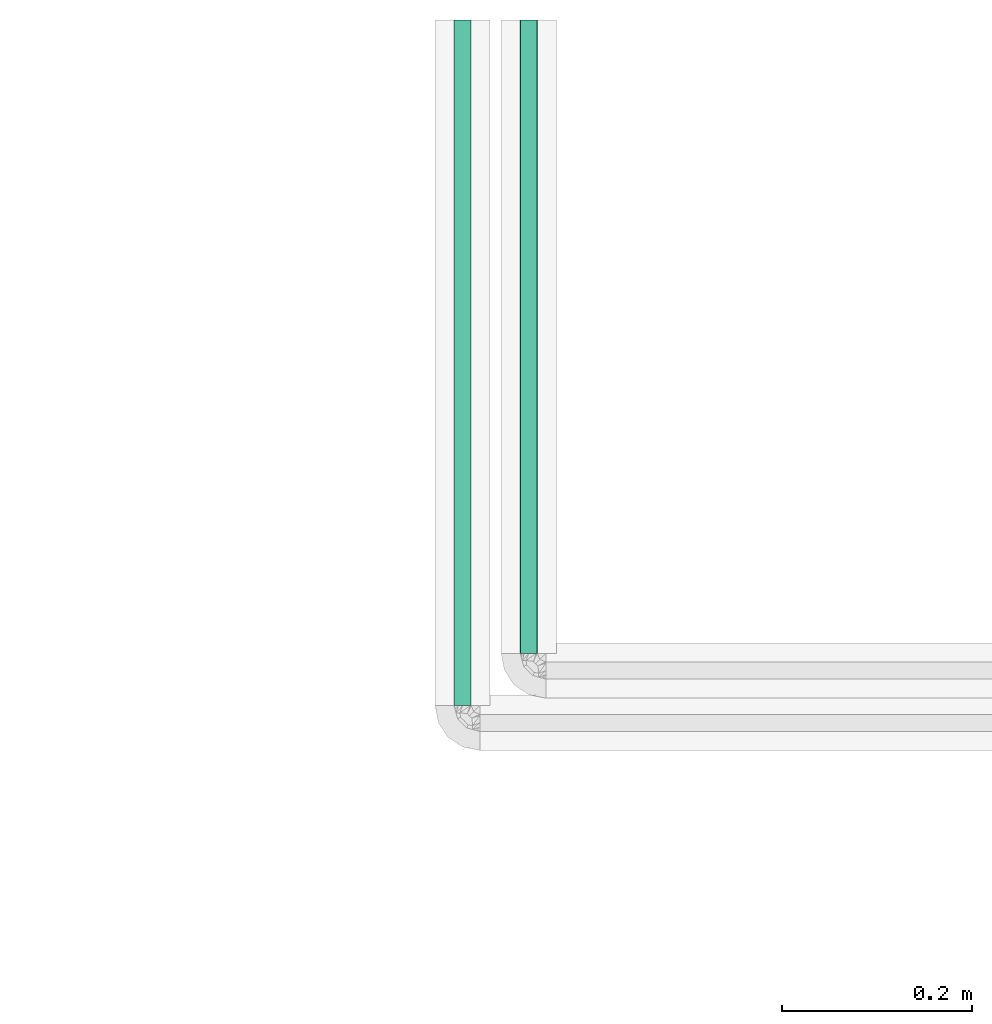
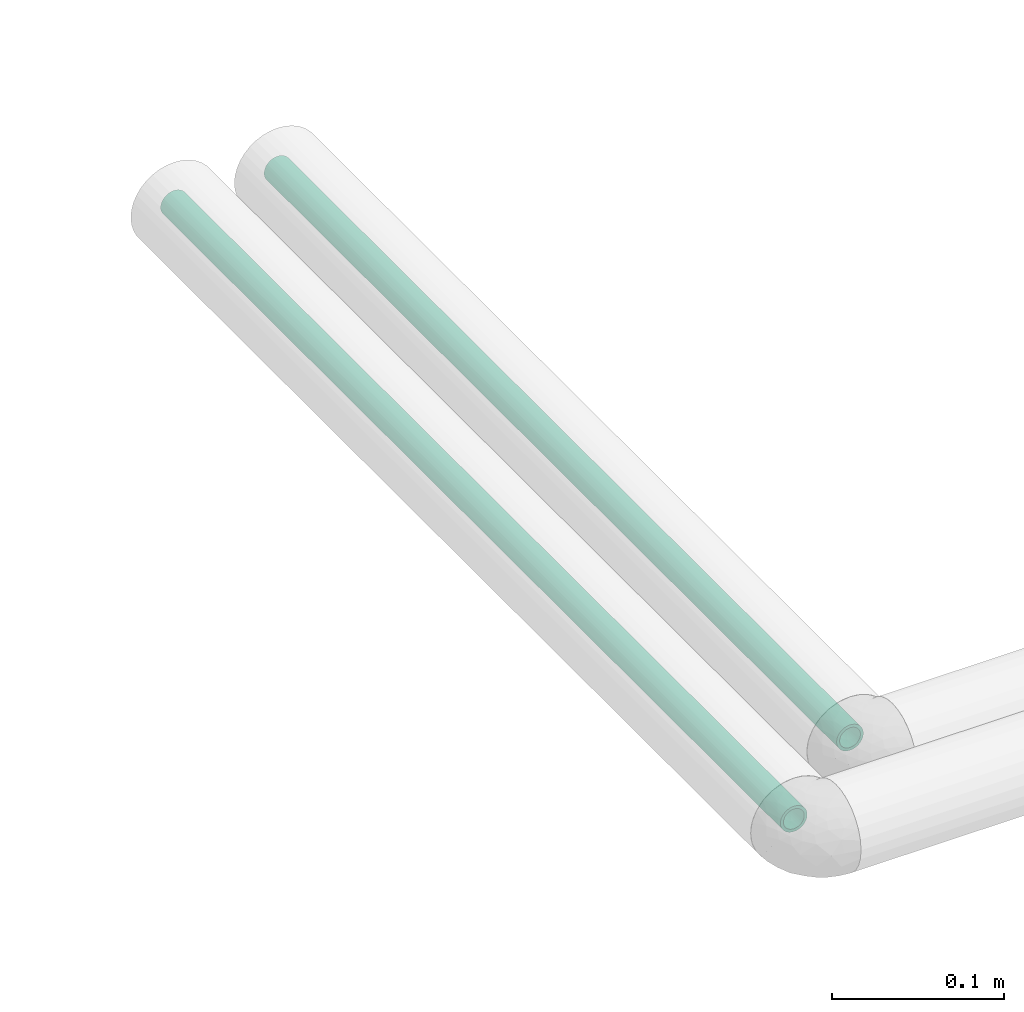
# One storey, part 74 of 83: 2 flow segments.
"""IFC2X3 building model written with IfcOpenShell, lengths in millimetres."""

import ifcopenshell
import ifcopenshell.guid

model = None  # the IFC model being written
_history = None  # IfcOwnerHistory: only IFC2X3 demands one
_inside = {}  # id of a spatial element -> (the spatial element, [elements in it])
_under = {}  # id of a project, library or spatial element -> (it, [spatial elements below it])
_declared = {}  # id of a project -> (the project, [libraries it declares])
_typed = {}  # id of a type object -> (the type object, [elements of that type])
_made_of = {}  # id of a material, layer set ... -> (it, [elements and type objects made of it])


def new_model(schema):
    """Start an empty IFC model of exactly this schema.

    Asked for "IFC4X3", IfcOpenShell would pick the latest addendum, in which some entities
    have other attributes; the version numbers below select the first issue.
    IFC2X3 requires an IfcOwnerHistory on every rooted entity: one is made here for all.
    """
    global model, _history
    if schema == "IFC4X3":
        model = ifcopenshell.file(schema_version=(4, 3, 0, 0))
    else:
        model = ifcopenshell.file(schema=schema)
    _inside.clear()
    _under.clear()
    _declared.clear()
    _typed.clear()
    _made_of.clear()
    _history = None
    if model.schema == "IFC2X3":
        org = make("IfcOrganization", Name="unknown")
        user = make(
            "IfcPersonAndOrganization",
            ThePerson=make("IfcPerson", FamilyName="unknown"),
            TheOrganization=org,
        )
        app = make(
            "IfcApplication",
            ApplicationDeveloper=org,
            Version="unknown",
            ApplicationFullName="unknown",
            ApplicationIdentifier="unknown",
        )
        _history = make(
            "IfcOwnerHistory",
            OwningUser=user,
            OwningApplication=app,
            ChangeAction="ADDED",
            CreationDate=0,
        )
    return model


def make(cls, **values):
    """One entity of the class cls with the attributes given. An attribute that is None is left unset."""
    return model.create_entity(
        cls, **{name: value for name, value in values.items() if value is not None}
    )


def entity(cls, *values):
    """Any entity or typed value of the class cls, its attributes in the order of the schema. None: left unset."""
    e = model.create_entity(cls)
    for i, value in enumerate(values):
        if value is not None:
            e[i] = value
    return e


def rooted(cls, **values):
    """An entity with a GlobalId (a new one), such as an element, a storey or a relation."""
    return make(cls, GlobalId=ifcopenshell.guid.new(), OwnerHistory=_history, **values)


def si_unit(unit_type, name, prefix=None):
    """IfcSIUnit, for example si_unit("LENGTHUNIT", "METRE", prefix="MILLI")."""
    return make("IfcSIUnit", UnitType=unit_type, Prefix=prefix, Name=name)


def converted_unit(unit_type, name, factor, base, dimensions=None, offset=None):
    """IfcConversionBasedUnit, such as the inch: factor (a typed value) times the base unit."""
    return make(
        "IfcConversionBasedUnit"
        if offset is None
        else "IfcConversionBasedUnitWithOffset",
        ConversionOffset=offset,
        Dimensions=None
        if dimensions is None
        else entity("IfcDimensionalExponents", *dimensions),
        UnitType=unit_type,
        Name=name,
        ConversionFactor=make(
            "IfcMeasureWithUnit", ValueComponent=factor, UnitComponent=base
        ),
    )


def derived_unit(unit_type, elements):
    """IfcDerivedUnit: a product of units, each with its exponent."""
    return make(
        "IfcDerivedUnit",
        Elements=[
            make("IfcDerivedUnitElement", Unit=unit, Exponent=power)
            for unit, power in elements
        ],
        UnitType=unit_type,
    )


def assignment(units):
    """IfcUnitAssignment: the units of a project."""
    return None if units is None else make("IfcUnitAssignment", Units=units)


def point(xyz):
    """IfcCartesianPoint."""
    return None if xyz is None else make("IfcCartesianPoint", Coordinates=xyz)


def direction(xyz):
    """IfcDirection."""
    return None if xyz is None else make("IfcDirection", DirectionRatios=xyz)


def frame(location, z_axis=None, x_axis=None):
    """IfcAxis2Placement3D, a coordinate frame: its origin and axes. An axis left out is left unset."""
    return make(
        "IfcAxis2Placement3D",
        Location=point(location),
        Axis=direction(z_axis),
        RefDirection=direction(x_axis),
    )


def place(relative_to, where):
    """IfcLocalPlacement: puts the frame where relative to a parent placement (None: the world)."""
    return make(
        "IfcLocalPlacement", PlacementRelTo=relative_to, RelativePlacement=where
    )


def context(
    kind, dimensions, precision=None, world=None, true_north=None, identifier=None
):
    """IfcGeometricRepresentationContext, for example the 3D "Model" context."""
    return make(
        "IfcGeometricRepresentationContext",
        ContextIdentifier=identifier,
        ContextType=kind,
        CoordinateSpaceDimension=dimensions,
        Precision=precision,
        WorldCoordinateSystem=world,
        TrueNorth=true_north,
    )


def subcontext(parent, identifier, kind, view, scale=None):
    """IfcGeometricRepresentationSubContext, for example "Body" below "Model"."""
    return make(
        "IfcGeometricRepresentationSubContext",
        ContextIdentifier=identifier,
        ContextType=kind,
        ParentContext=parent,
        TargetScale=scale,
        TargetView=view,
    )


def project(units=None, contexts=None):
    """IfcProject with its units and contexts."""
    return rooted(
        "IfcProject",
        Name="project",
        RepresentationContexts=contexts,
        UnitsInContext=assignment(units),
    )


def spatial(cls, under=None, at=None, **own):
    """A site, building, storey or space (cls), placed at a placement, below another one or the project."""
    s = rooted(cls, ObjectPlacement=at, **own)
    if under is not None:
        _under.setdefault(under.id(), (under, []))[1].append(s)
    return s


def faces_of(points, faces, orient=None, outer=None):
    """IfcFace entities. A face is a list of loops; a loop is a list of indices into points, from 0.

    orient and outer hold one flag for each loop. By default every Orientation is true, the
    first loop of a face is its IfcFaceOuterBound and the others are IfcFaceBound.
    """
    made = []
    for i, loops in enumerate(faces):
        bounds = []
        for j, loop in enumerate(loops):
            is_outer = j == 0 if outer is None else outer[i][j]
            bounds.append(
                make(
                    "IfcFaceOuterBound" if is_outer else "IfcFaceBound",
                    Bound=make("IfcPolyLoop", Polygon=[points[k] for k in loop]),
                    Orientation=True if orient is None else orient[i][j],
                )
            )
        made.append(make("IfcFace", Bounds=bounds))
    return made


def faceted_brep(points, faces, orient=None, outer=None, voids=None):
    """IfcFacetedBrep: a solid bounded by flat faces; with voids (closed shells), ...WithVoids."""
    shared = [point(p) for p in points]
    hull = make("IfcClosedShell", CfsFaces=faces_of(shared, faces, orient, outer))
    if voids is None:
        return make("IfcFacetedBrep", Outer=hull)
    return make(
        "IfcFacetedBrepWithVoids",
        Outer=hull,
        Voids=[
            make(cls, CfsFaces=faces_of(shared, fs, o, b)) for cls, fs, o, b in voids
        ],
    )


def shape(context_of_items, identifier, shape_type, items):
    """IfcShapeRepresentation: the items that make up one representation, for example the "Body"."""
    return make(
        "IfcShapeRepresentation",
        ContextOfItems=context_of_items,
        RepresentationIdentifier=identifier,
        RepresentationType=shape_type,
        Items=items,
    )


def made_of(thing, what):
    """Note that an element or type object is made of a material, layer set ...; save() writes the relation."""
    if what is not None:
        _made_of.setdefault(what.id(), (what, []))[1].append(thing)
    return thing


def type_object(cls, material=None, **own):
    """A type object (cls), such as IfcWallType, which elements share."""
    return made_of(rooted(cls, **own), material)


def element(
    cls,
    number,
    at=None,
    inside=None,
    cuts=None,
    type_object=None,
    material=None,
    context=None,
    identifier="Body",
    shape_type=None,
    held_by="IfcProductDefinitionShape",
    body=None,
    shapes=None,
    **own,
):
    """One element of the class cls, such as IfcWall. Its Tag is "e" and its number.

    at: its placement. inside: the storey or other place that contains it. cuts: it is an
    opening in that element (IfcRelVoidsElement). A single representation is given by context,
    identifier, shape_type and body (its items); several are given by shapes. held_by: the class
    of the entity that holds the representations. save() writes the other relations.
    """
    e = rooted(cls, Tag="e%d" % number, ObjectPlacement=at, **own)
    if body is not None:
        shapes = [shape(context, identifier, shape_type, body)]
    if shapes is not None:
        e.Representation = make(held_by, Representations=shapes)
    if inside is not None:
        _inside.setdefault(inside.id(), (inside, []))[1].append(e)
    if cuts is not None:
        rooted(
            "IfcRelVoidsElement", RelatingBuildingElement=cuts, RelatedOpeningElement=e
        )
    if type_object is not None:
        _typed.setdefault(type_object.id(), (type_object, []))[1].append(e)
    return made_of(e, material)


def aggregate(whole, parts):
    """IfcRelAggregates: a whole, such as a stair, and the parts it consists of."""
    return rooted("IfcRelAggregates", RelatingObject=whole, RelatedObjects=parts)


def save(model, path):
    """Write the relations noted so far, then the file.

    IfcRelAggregates (storeys below a building ...), IfcRelContainedInSpatialStructure (elements
    in a storey), IfcRelDefinesByType, IfcRelAssociatesMaterial and IfcRelDeclares: one each for
    every whole, place, type object, material and project.
    """
    for whole, parts in _under.values():
        aggregate(whole, parts)
    for where, things in _inside.values():
        rooted(
            "IfcRelContainedInSpatialStructure",
            RelatedElements=things,
            RelatingStructure=where,
        )
    for kind, things in _typed.values():
        rooted("IfcRelDefinesByType", RelatedObjects=things, RelatingType=kind)
    for what, things in _made_of.values():
        rooted("IfcRelAssociatesMaterial", RelatedObjects=things, RelatingMaterial=what)
    for by, libraries in _declared.values():
        rooted("IfcRelDeclares", RelatingContext=by, RelatedDefinitions=libraries)
    model.write(path)


model = new_model("IFC2X3")

# Units and contexts
model_context = context("Model", 3, precision=0.01, world=frame((0.0, 4.29681676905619e-09, 0.0)), true_north=direction((4.01073788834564e-13, 1.0)))
plan_context = context("Plan", 3, precision=0.01, world=frame((0.0, 4.29681676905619e-09, 0.0)), true_north=direction((4.01073788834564e-13, 1.0)))
body_context = subcontext(model_context, "Body", "Model", "MODEL_VIEW")
ifc_project = project(units=[converted_unit("PLANEANGLEUNIT", "DEGREE", entity("IfcPositiveLengthMeasure", 0.0174532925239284), si_unit("PLANEANGLEUNIT", "RADIAN"), dimensions=[0, 0, 0, 0, 0, 0, 0]), si_unit("AREAUNIT", "SQUARE_METRE"), si_unit("LENGTHUNIT", "METRE", prefix="MILLI"), si_unit("MASSUNIT", "GRAM", prefix="KILO"), si_unit("POWERUNIT", "WATT"), si_unit("PRESSUREUNIT", "PASCAL"), si_unit("FORCEUNIT", "NEWTON", prefix="KILO"), si_unit("ELECTRICVOLTAGEUNIT", "VOLT"), si_unit("ELECTRICCURRENTUNIT", "AMPERE"), si_unit("THERMODYNAMICTEMPERATUREUNIT", "DEGREE_CELSIUS"), si_unit("TIMEUNIT", "SECOND"), si_unit("VOLUMEUNIT", "CUBIC_METRE"), derived_unit("LINEARVELOCITYUNIT", [(si_unit("LENGTHUNIT", "METRE"), 1), (si_unit("TIMEUNIT", "SECOND"), -1)]), derived_unit("VOLUMETRICFLOWRATEUNIT", [(si_unit("VOLUMEUNIT", "CUBIC_METRE"), 1), (si_unit("TIMEUNIT", "SECOND"), -1)]), derived_unit("THERMALTRANSMITTANCEUNIT", [(si_unit("POWERUNIT", "WATT"), 1), (si_unit("THERMODYNAMICTEMPERATUREUNIT", "KELVIN"), -1), (si_unit("AREAUNIT", "SQUARE_METRE"), -1)]), derived_unit("SOUNDPRESSUREUNIT", [(si_unit("PRESSUREUNIT", "PASCAL"), 1)])], contexts=[model_context, plan_context])

# Site, building, storey
site_placement = place(None, frame((0.0, -4.29681676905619e-09, 0.0), z_axis=(0.0, 0.0, 1.0), x_axis=(1.0, 0.0, 0.0)))
site = spatial("IfcSite", under=ifc_project, at=site_placement, Name="ENGM", CompositionType="ELEMENT")
building_placement = place(site_placement, frame((0.0, 4.29681676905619e-09, 0.0), z_axis=(0.0, 0.0, 1.0), x_axis=(1.0, 0.0, 0.0)))
building = spatial("IfcBuilding", under=site, at=building_placement, Name="TI", CompositionType="ELEMENT")
storey_placement = place(building_placement, frame((0.0, 0.0, 204000.0), z_axis=(0.0, 0.0, 1.0), x_axis=(1.0, 0.0, 0.0)))
storey = spatial("IfcBuildingStorey", under=building, at=storey_placement, Name="Nivå D", CompositionType="ELEMENT", Elevation=204000.0)

# Flow segments
pipe_segment_type = type_object("IfcPipeSegmentType", Name="Kobberrør", PredefinedType="RIGIDSEGMENT")
flow_segment_1_placement = place(storey_placement, frame((607289.38671, 703151.51267, 6330.0), z_axis=(0.0, 0.0, 1.0), x_axis=(0.0, -1.0, 0.0)))
element("IfcFlowSegment", 1, at=flow_segment_1_placement, inside=storey, type_object=pipe_segment_type, Name="Kobberrør", context=body_context, shape_type="Brep", body=[
    faceted_brep([(3676.01267000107, 6.89365427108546, -1.21553724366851), (3676.01267000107, 7.0, 0.0), (4341.7, 7.0, 0.0), (4341.7, 6.89365427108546, -1.21553724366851), (3676.01267000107, 6.57784834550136, -2.39414100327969), (4341.7, 6.57784834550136, -2.39414100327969), (3676.01267000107, 6.06217782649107, -3.5), (4341.7, 6.06217782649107, -3.5), (3676.01267000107, 5.36231110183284, -4.49951326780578), (4341.7, 5.36231110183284, -4.49951326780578), (3676.01267000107, 4.49951326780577, -5.36231110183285), (4341.7, 4.49951326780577, -5.36231110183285), (3676.01267000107, 3.5, -6.06217782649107), (4341.7, 3.5, -6.06217782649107), (3676.01267000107, 2.39414100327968, -6.57784834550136), (4341.7, 2.39414100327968, -6.57784834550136), (3676.01267000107, 1.21553724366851, -6.89365427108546), (4341.7, 1.21553724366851, -6.89365427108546), (3676.01267000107, -1.28587913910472e-15, -7.0), (4341.7, -1.28587913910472e-15, -7.0), (3676.01267000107, -1.21553724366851, -6.89365427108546), (4341.7, -1.21553724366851, -6.89365427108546), (3676.01267000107, -2.39414100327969, -6.57784834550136), (4341.7, -2.39414100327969, -6.57784834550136), (3676.01267000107, -3.5, -6.06217782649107), (4341.7, -3.5, -6.06217782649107), (3676.01267000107, -4.49951326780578, -5.36231110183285), (4341.7, -4.49951326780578, -5.36231110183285), (3676.01267000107, -5.36231110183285, -4.49951326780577), (4341.7, -5.36231110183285, -4.49951326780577), (3676.01267000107, -6.06217782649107, -3.5), (4341.7, -6.06217782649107, -3.5), (3676.01267000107, -6.57784834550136, -2.39414100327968), (4341.7, -6.57784834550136, -2.39414100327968), (3676.01267000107, -6.89365427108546, -1.21553724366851), (4341.7, -6.89365427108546, -1.21553724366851), (3676.01267000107, -7.0, 8.57252759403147e-16), (4341.7, -7.0, 8.57252759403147e-16), (3676.01267000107, -6.89365427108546, 1.21553724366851), (4341.7, -6.89365427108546, 1.21553724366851), (3676.01267000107, -6.57784834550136, 2.39414100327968), (4341.7, -6.57784834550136, 2.39414100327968), (3676.01267000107, -6.06217782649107, 3.5), (4341.7, -6.06217782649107, 3.5), (3676.01267000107, -5.36231110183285, 4.49951326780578), (4341.7, -5.36231110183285, 4.49951326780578), (3676.01267000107, -4.49951326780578, 5.36231110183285), (4341.7, -4.49951326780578, 5.36231110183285), (3676.01267000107, -3.5, 6.06217782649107), (4341.7, -3.5, 6.06217782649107), (3676.01267000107, -2.39414100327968, 6.57784834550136), (4341.7, -2.39414100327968, 6.57784834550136), (3676.01267000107, -1.21553724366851, 6.89365427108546), (4341.7, -1.21553724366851, 6.89365427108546), (3676.01267000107, 4.28626379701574e-16, 7.0), (4341.7, 4.28626379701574e-16, 7.0), (3676.01267000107, 1.21553724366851, 6.89365427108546), (4341.7, 1.21553724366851, 6.89365427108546), (3676.01267000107, 2.39414100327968, 6.57784834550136), (4341.7, 2.39414100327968, 6.57784834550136), (3676.01267000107, 3.5, 6.06217782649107), (4341.7, 3.5, 6.06217782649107), (3676.01267000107, 4.49951326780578, 5.36231110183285), (4341.7, 4.49951326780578, 5.36231110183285), (3676.01267000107, 5.36231110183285, 4.49951326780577), (4341.7, 5.36231110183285, 4.49951326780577), (3676.01267000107, 6.06217782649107, 3.5), (4341.7, 6.06217782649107, 3.5), (3676.01267000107, 6.57784834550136, 2.39414100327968), (4341.7, 6.57784834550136, 2.39414100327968), (3676.01267000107, 6.89365427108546, 1.21553724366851), (4341.7, 6.89365427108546, 1.21553724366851), (3676.01267000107, 9.0, 0.0), (3676.01267000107, 8.86326977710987, -1.56283359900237), (4341.7, 8.86326977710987, -1.56283359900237), (4341.7, 9.0, 0.0), (3676.01267000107, 8.86326977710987, 1.56283359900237), (4341.7, 8.86326977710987, 1.56283359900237), (3676.01267000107, 8.45723358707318, 3.07818128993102), (4341.7, 8.45723358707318, 3.07818128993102), (3676.01267000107, 7.79422863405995, 4.5), (4341.7, 7.79422863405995, 4.5), (3676.01267000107, 6.8943999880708, 5.78508848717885), (4341.7, 6.8943999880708, 5.78508848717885), (3676.01267000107, 5.78508848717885, 6.8943999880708), (4341.7, 5.78508848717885, 6.8943999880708), (3676.01267000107, 4.5, 7.79422863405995), (4341.7, 4.5, 7.79422863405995), (3676.01267000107, 3.07818128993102, 8.45723358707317), (4341.7, 3.07818128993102, 8.45723358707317), (3676.01267000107, 1.56283359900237, 8.86326977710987), (4341.7, 1.56283359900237, 8.86326977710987), (3676.01267000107, 5.51091059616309e-16, 9.0), (4341.7, 5.51091059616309e-16, 9.0), (3676.01267000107, -1.56283359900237, 8.86326977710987), (4341.7, -1.56283359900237, 8.86326977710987), (3676.01267000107, -3.07818128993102, 8.45723358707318), (4341.7, -3.07818128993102, 8.45723358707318), (3676.01267000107, -4.5, 7.79422863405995), (4341.7, -4.5, 7.79422863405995), (3676.01267000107, -5.78508848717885, 6.8943999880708), (4341.7, -5.78508848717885, 6.8943999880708), (3676.01267000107, -6.8943999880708, 5.78508848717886), (4341.7, -6.8943999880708, 5.78508848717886), (3676.01267000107, -7.79422863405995, 4.5), (4341.7, -7.79422863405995, 4.5), (3676.01267000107, -8.45723358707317, 3.07818128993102), (4341.7, -8.45723358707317, 3.07818128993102), (3676.01267000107, -8.86326977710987, 1.56283359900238), (4341.7, -8.86326977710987, 1.56283359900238), (3676.01267000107, -9.0, 1.10218211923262e-15), (4341.7, -9.0, 1.10218211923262e-15), (3676.01267000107, -8.86326977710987, -1.56283359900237), (4341.7, -8.86326977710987, -1.56283359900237), (3676.01267000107, -8.45723358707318, -3.07818128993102), (4341.7, -8.45723358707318, -3.07818128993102), (3676.01267000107, -7.79422863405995, -4.5), (4341.7, -7.79422863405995, -4.5), (3676.01267000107, -6.8943999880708, -5.78508848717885), (4341.7, -6.8943999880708, -5.78508848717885), (3676.01267000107, -5.78508848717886, -6.8943999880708), (4341.7, -5.78508848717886, -6.8943999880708), (3676.01267000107, -4.5, -7.79422863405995), (4341.7, -4.5, -7.79422863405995), (3676.01267000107, -3.07818128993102, -8.45723358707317), (4341.7, -3.07818128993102, -8.45723358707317), (3676.01267000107, -1.56283359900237, -8.86326977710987), (4341.7, -1.56283359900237, -8.86326977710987), (3676.01267000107, -1.65327317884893e-15, -9.0), (4341.7, -1.65327317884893e-15, -9.0), (3676.01267000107, 1.56283359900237, -8.86326977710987), (4341.7, 1.56283359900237, -8.86326977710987), (3676.01267000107, 3.07818128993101, -8.45723358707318), (4341.7, 3.07818128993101, -8.45723358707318), (3676.01267000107, 4.5, -7.79422863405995), (4341.7, 4.5, -7.79422863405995), (3676.01267000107, 5.78508848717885, -6.8943999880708), (4341.7, 5.78508848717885, -6.8943999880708), (3676.01267000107, 6.8943999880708, -5.78508848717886), (4341.7, 6.8943999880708, -5.78508848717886), (3676.01267000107, 7.79422863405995, -4.5), (4341.7, 7.79422863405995, -4.5), (3676.01267000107, 8.45723358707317, -3.07818128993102), (4341.7, 8.45723358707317, -3.07818128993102)], [[[0, 1, 2, 3]], [[4, 0, 3, 5]], [[6, 4, 5, 7]], [[8, 6, 7, 9]], [[10, 8, 9, 11]], [[12, 10, 11, 13]], [[14, 12, 13, 15]], [[16, 14, 15, 17]], [[18, 16, 17, 19]], [[20, 18, 19, 21]], [[22, 20, 21, 23]], [[24, 22, 23, 25]], [[26, 24, 25, 27]], [[28, 26, 27, 29]], [[30, 28, 29, 31]], [[32, 30, 31, 33]], [[34, 32, 33, 35]], [[36, 34, 35, 37]], [[38, 36, 37, 39]], [[40, 38, 39, 41]], [[42, 40, 41, 43]], [[44, 42, 43, 45]], [[46, 44, 45, 47]], [[48, 46, 47, 49]], [[50, 48, 49, 51]], [[52, 50, 51, 53]], [[54, 52, 53, 55]], [[56, 54, 55, 57]], [[58, 56, 57, 59]], [[60, 58, 59, 61]], [[62, 60, 61, 63]], [[64, 62, 63, 65]], [[66, 64, 65, 67]], [[68, 66, 67, 69]], [[70, 68, 69, 71]], [[1, 70, 71, 2]], [[72, 73, 74, 75]], [[76, 72, 75, 77]], [[78, 76, 77, 79]], [[80, 78, 79, 81]], [[82, 80, 81, 83]], [[84, 82, 83, 85]], [[86, 84, 85, 87]], [[88, 86, 87, 89]], [[90, 88, 89, 91]], [[92, 90, 91, 93]], [[94, 92, 93, 95]], [[96, 94, 95, 97]], [[98, 96, 97, 99]], [[100, 98, 99, 101]], [[102, 100, 101, 103]], [[104, 102, 103, 105]], [[106, 104, 105, 107]], [[108, 106, 107, 109]], [[110, 108, 109, 111]], [[112, 110, 111, 113]], [[114, 112, 113, 115]], [[116, 114, 115, 117]], [[118, 116, 117, 119]], [[120, 118, 119, 121]], [[122, 120, 121, 123]], [[124, 122, 123, 125]], [[126, 124, 125, 127]], [[128, 126, 127, 129]], [[130, 128, 129, 131]], [[132, 130, 131, 133]], [[134, 132, 133, 135]], [[136, 134, 135, 137]], [[138, 136, 137, 139]], [[140, 138, 139, 141]], [[142, 140, 141, 143]], [[73, 142, 143, 74]], [[75, 74, 143, 141, 139, 137, 135, 133, 131, 129, 127, 125, 123, 121, 119, 117, 115, 113, 111, 109, 107, 105, 103, 101, 99, 97, 95, 93, 91, 89, 87, 85, 83, 81, 79, 77], [2, 71, 69, 67, 65, 63, 61, 59, 57, 55, 53, 51, 49, 47, 45, 43, 41, 39, 37, 35, 33, 31, 29, 27, 25, 23, 21, 19, 17, 15, 13, 11, 9, 7, 5, 3]], [[76, 78, 80, 82, 84, 86, 88, 90, 92, 94, 96, 98, 100, 102, 104, 106, 108, 110, 112, 114, 116, 118, 120, 122, 124, 126, 128, 130, 132, 134, 136, 138, 140, 142, 73, 72], [4, 6, 8, 10, 12, 14, 16, 18, 20, 22, 24, 26, 28, 30, 32, 34, 36, 38, 40, 42, 44, 46, 48, 50, 52, 54, 56, 58, 60, 62, 64, 66, 68, 70, 1, 0]]], orient=[[False], [False], [False], [False], [False], [False], [False], [False], [False], [False], [False], [False], [False], [False], [False], [False], [False], [False], [False], [False], [False], [False], [False], [False], [False], [False], [False], [False], [False], [False], [False], [False], [False], [False], [False], [False], [False], [False], [False], [False], [False], [False], [False], [False], [False], [False], [False], [False], [False], [False], [False], [False], [False], [False], [False], [False], [False], [False], [False], [False], [False], [False], [False], [False], [False], [False], [False], [False], [False], [False], [False], [False], [False, False], [False, False]]),
])
flow_segment_2_placement = place(storey_placement, frame((607219.88671, 703093.7695, 6330.0), z_axis=(0.0, 0.0, 1.0), x_axis=(0.0, -1.0, 0.0)))
element("IfcFlowSegment", 2, at=flow_segment_2_placement, inside=storey, type_object=pipe_segment_type, Name="Kobberrør", context=body_context, shape_type="Brep", body=[
    faceted_brep([(3618.26950000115, 6.89365427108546, -1.21553724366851), (3618.26950000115, 7.0, 0.0), (4339.0, 7.0, 0.0), (4339.0, 6.89365427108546, -1.21553724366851), (3618.26950000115, 6.57784834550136, -2.39414100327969), (4339.0, 6.57784834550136, -2.39414100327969), (3618.26950000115, 6.06217782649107, -3.5), (4339.0, 6.06217782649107, -3.5), (3618.26950000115, 5.36231110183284, -4.49951326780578), (4339.0, 5.36231110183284, -4.49951326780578), (3618.26950000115, 4.49951326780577, -5.36231110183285), (4339.0, 4.49951326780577, -5.36231110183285), (3618.26950000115, 3.5, -6.06217782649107), (4339.0, 3.5, -6.06217782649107), (3618.26950000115, 2.39414100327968, -6.57784834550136), (4339.0, 2.39414100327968, -6.57784834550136), (3618.26950000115, 1.21553724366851, -6.89365427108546), (4339.0, 1.21553724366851, -6.89365427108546), (3618.26950000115, -1.28587913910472e-15, -7.0), (4339.0, -1.28587913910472e-15, -7.0), (3618.26950000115, -1.21553724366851, -6.89365427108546), (4339.0, -1.21553724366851, -6.89365427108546), (3618.26950000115, -2.39414100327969, -6.57784834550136), (4339.0, -2.39414100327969, -6.57784834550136), (3618.26950000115, -3.5, -6.06217782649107), (4339.0, -3.5, -6.06217782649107), (3618.26950000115, -4.49951326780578, -5.36231110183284), (4339.0, -4.49951326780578, -5.36231110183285), (3618.26950000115, -5.36231110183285, -4.49951326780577), (4339.0, -5.36231110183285, -4.49951326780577), (3618.26950000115, -6.06217782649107, -3.5), (4339.0, -6.06217782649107, -3.5), (3618.26950000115, -6.57784834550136, -2.39414100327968), (4339.0, -6.57784834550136, -2.39414100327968), (3618.26950000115, -6.89365427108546, -1.21553724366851), (4339.0, -6.89365427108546, -1.21553724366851), (3618.26950000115, -7.0, 8.57252759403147e-16), (4339.0, -7.0, 8.57252759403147e-16), (3618.26950000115, -6.89365427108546, 1.21553724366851), (4339.0, -6.89365427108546, 1.21553724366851), (3618.26950000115, -6.57784834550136, 2.39414100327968), (4339.0, -6.57784834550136, 2.39414100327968), (3618.26950000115, -6.06217782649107, 3.5), (4339.0, -6.06217782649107, 3.5), (3618.26950000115, -5.36231110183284, 4.49951326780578), (4339.0, -5.36231110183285, 4.49951326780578), (3618.26950000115, -4.49951326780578, 5.36231110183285), (4339.0, -4.49951326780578, 5.36231110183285), (3618.26950000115, -3.5, 6.06217782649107), (4339.0, -3.5, 6.06217782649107), (3618.26950000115, -2.39414100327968, 6.57784834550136), (4339.0, -2.39414100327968, 6.57784834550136), (3618.26950000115, -1.21553724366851, 6.89365427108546), (4339.0, -1.21553724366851, 6.89365427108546), (3618.26950000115, 4.28626379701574e-16, 7.0), (4339.0, 4.28626379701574e-16, 7.0), (3618.26950000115, 1.21553724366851, 6.89365427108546), (4339.0, 1.21553724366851, 6.89365427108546), (3618.26950000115, 2.39414100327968, 6.57784834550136), (4339.0, 2.39414100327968, 6.57784834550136), (3618.26950000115, 3.5, 6.06217782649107), (4339.0, 3.5, 6.06217782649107), (3618.26950000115, 4.49951326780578, 5.36231110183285), (4339.0, 4.49951326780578, 5.36231110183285), (3618.26950000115, 5.36231110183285, 4.49951326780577), (4339.0, 5.36231110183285, 4.49951326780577), (3618.26950000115, 6.06217782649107, 3.5), (4339.0, 6.06217782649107, 3.5), (3618.26950000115, 6.57784834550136, 2.39414100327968), (4339.0, 6.57784834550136, 2.39414100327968), (3618.26950000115, 6.89365427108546, 1.21553724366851), (4339.0, 6.89365427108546, 1.21553724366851), (3618.26950000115, 9.0, 0.0), (3618.26950000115, 8.86326977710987, -1.56283359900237), (4339.0, 8.86326977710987, -1.56283359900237), (4339.0, 9.0, 0.0), (3618.26950000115, 8.86326977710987, 1.56283359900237), (4339.0, 8.86326977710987, 1.56283359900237), (3618.26950000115, 8.45723358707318, 3.07818128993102), (4339.0, 8.45723358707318, 3.07818128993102), (3618.26950000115, 7.79422863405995, 4.5), (4339.0, 7.79422863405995, 4.5), (3618.26950000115, 6.8943999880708, 5.78508848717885), (4339.0, 6.8943999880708, 5.78508848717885), (3618.26950000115, 5.78508848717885, 6.8943999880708), (4339.0, 5.78508848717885, 6.8943999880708), (3618.26950000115, 4.5, 7.79422863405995), (4339.0, 4.5, 7.79422863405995), (3618.26950000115, 3.07818128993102, 8.45723358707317), (4339.0, 3.07818128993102, 8.45723358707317), (3618.26950000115, 1.56283359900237, 8.86326977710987), (4339.0, 1.56283359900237, 8.86326977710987), (3618.26950000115, 5.51091059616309e-16, 9.0), (4339.0, 5.51091059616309e-16, 9.0), (3618.26950000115, -1.56283359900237, 8.86326977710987), (4339.0, -1.56283359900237, 8.86326977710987), (3618.26950000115, -3.07818128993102, 8.45723358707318), (4339.0, -3.07818128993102, 8.45723358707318), (3618.26950000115, -4.5, 7.79422863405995), (4339.0, -4.5, 7.79422863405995), (3618.26950000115, -5.78508848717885, 6.8943999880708), (4339.0, -5.78508848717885, 6.8943999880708), (3618.26950000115, -6.8943999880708, 5.78508848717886), (4339.0, -6.8943999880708, 5.78508848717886), (3618.26950000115, -7.79422863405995, 4.5), (4339.0, -7.79422863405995, 4.5), (3618.26950000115, -8.45723358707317, 3.07818128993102), (4339.0, -8.45723358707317, 3.07818128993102), (3618.26950000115, -8.86326977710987, 1.56283359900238), (4339.0, -8.86326977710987, 1.56283359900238), (3618.26950000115, -9.0, 1.10218211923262e-15), (4339.0, -9.0, 1.10218211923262e-15), (3618.26950000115, -8.86326977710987, -1.56283359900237), (4339.0, -8.86326977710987, -1.56283359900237), (3618.26950000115, -8.45723358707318, -3.07818128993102), (4339.0, -8.45723358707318, -3.07818128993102), (3618.26950000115, -7.79422863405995, -4.5), (4339.0, -7.79422863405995, -4.5), (3618.26950000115, -6.8943999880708, -5.78508848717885), (4339.0, -6.8943999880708, -5.78508848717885), (3618.26950000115, -5.78508848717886, -6.8943999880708), (4339.0, -5.78508848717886, -6.8943999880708), (3618.26950000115, -4.5, -7.79422863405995), (4339.0, -4.5, -7.79422863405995), (3618.26950000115, -3.07818128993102, -8.45723358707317), (4339.0, -3.07818128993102, -8.45723358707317), (3618.26950000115, -1.56283359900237, -8.86326977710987), (4339.0, -1.56283359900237, -8.86326977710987), (3618.26950000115, -1.65327317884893e-15, -9.0), (4339.0, -1.65327317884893e-15, -9.0), (3618.26950000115, 1.56283359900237, -8.86326977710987), (4339.0, 1.56283359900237, -8.86326977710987), (3618.26950000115, 3.07818128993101, -8.45723358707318), (4339.0, 3.07818128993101, -8.45723358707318), (3618.26950000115, 4.5, -7.79422863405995), (4339.0, 4.5, -7.79422863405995), (3618.26950000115, 5.78508848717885, -6.8943999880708), (4339.0, 5.78508848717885, -6.8943999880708), (3618.26950000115, 6.8943999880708, -5.78508848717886), (4339.0, 6.8943999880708, -5.78508848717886), (3618.26950000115, 7.79422863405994, -4.5), (4339.0, 7.79422863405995, -4.5), (3618.26950000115, 8.45723358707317, -3.07818128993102), (4339.0, 8.45723358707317, -3.07818128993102)], [[[0, 1, 2, 3]], [[4, 0, 3, 5]], [[6, 4, 5, 7]], [[8, 6, 7, 9]], [[10, 8, 9, 11]], [[12, 10, 11, 13]], [[14, 12, 13, 15]], [[16, 14, 15, 17]], [[18, 16, 17, 19]], [[20, 18, 19, 21]], [[22, 20, 21, 23]], [[24, 22, 23, 25]], [[26, 24, 25, 27]], [[28, 26, 27, 29]], [[30, 28, 29, 31]], [[32, 30, 31, 33]], [[34, 32, 33, 35]], [[36, 34, 35, 37]], [[38, 36, 37, 39]], [[40, 38, 39, 41]], [[42, 40, 41, 43]], [[44, 42, 43, 45]], [[46, 44, 45, 47]], [[48, 46, 47, 49]], [[50, 48, 49, 51]], [[52, 50, 51, 53]], [[54, 52, 53, 55]], [[56, 54, 55, 57]], [[58, 56, 57, 59]], [[60, 58, 59, 61]], [[62, 60, 61, 63]], [[64, 62, 63, 65]], [[66, 64, 65, 67]], [[68, 66, 67, 69]], [[70, 68, 69, 71]], [[1, 70, 71, 2]], [[72, 73, 74, 75]], [[76, 72, 75, 77]], [[78, 76, 77, 79]], [[80, 78, 79, 81]], [[82, 80, 81, 83]], [[84, 82, 83, 85]], [[86, 84, 85, 87]], [[88, 86, 87, 89]], [[90, 88, 89, 91]], [[92, 90, 91, 93]], [[94, 92, 93, 95]], [[96, 94, 95, 97]], [[98, 96, 97, 99]], [[100, 98, 99, 101]], [[102, 100, 101, 103]], [[104, 102, 103, 105]], [[106, 104, 105, 107]], [[108, 106, 107, 109]], [[110, 108, 109, 111]], [[112, 110, 111, 113]], [[114, 112, 113, 115]], [[116, 114, 115, 117]], [[118, 116, 117, 119]], [[120, 118, 119, 121]], [[122, 120, 121, 123]], [[124, 122, 123, 125]], [[126, 124, 125, 127]], [[128, 126, 127, 129]], [[130, 128, 129, 131]], [[132, 130, 131, 133]], [[134, 132, 133, 135]], [[136, 134, 135, 137]], [[138, 136, 137, 139]], [[140, 138, 139, 141]], [[142, 140, 141, 143]], [[73, 142, 143, 74]], [[75, 74, 143, 141, 139, 137, 135, 133, 131, 129, 127, 125, 123, 121, 119, 117, 115, 113, 111, 109, 107, 105, 103, 101, 99, 97, 95, 93, 91, 89, 87, 85, 83, 81, 79, 77], [2, 71, 69, 67, 65, 63, 61, 59, 57, 55, 53, 51, 49, 47, 45, 43, 41, 39, 37, 35, 33, 31, 29, 27, 25, 23, 21, 19, 17, 15, 13, 11, 9, 7, 5, 3]], [[76, 78, 80, 82, 84, 86, 88, 90, 92, 94, 96, 98, 100, 102, 104, 106, 108, 110, 112, 114, 116, 118, 120, 122, 124, 126, 128, 130, 132, 134, 136, 138, 140, 142, 73, 72], [4, 6, 8, 10, 12, 14, 16, 18, 20, 22, 24, 26, 28, 30, 32, 34, 36, 38, 40, 42, 44, 46, 48, 50, 52, 54, 56, 58, 60, 62, 64, 66, 68, 70, 1, 0]]], orient=[[False], [False], [False], [False], [False], [False], [False], [False], [False], [False], [False], [False], [False], [False], [False], [False], [False], [False], [False], [False], [False], [False], [False], [False], [False], [False], [False], [False], [False], [False], [False], [False], [False], [False], [False], [False], [False], [False], [False], [False], [False], [False], [False], [False], [False], [False], [False], [False], [False], [False], [False], [False], [False], [False], [False], [False], [False], [False], [False], [False], [False], [False], [False], [False], [False], [False], [False], [False], [False], [False], [False], [False], [False, False], [False, False]]),
])

save(model, "model.ifc")
